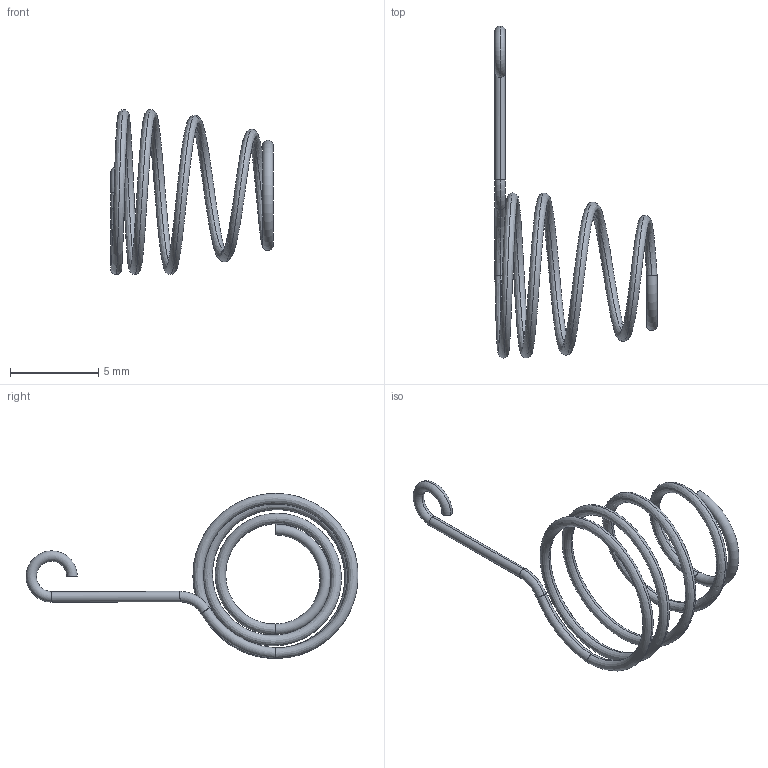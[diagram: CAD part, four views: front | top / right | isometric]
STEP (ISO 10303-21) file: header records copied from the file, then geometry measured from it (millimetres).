
FILE_DESCRIPTION(/* description */ ('STEP AP242 Edition 2','CAx-IF Rec.Pracs.---Representation and Presentation of Product Manufacturing Information (PMI)---4.0---2014-10-13','CAx-IF Rec.Pracs.---3D Tessellated Geometry---0.4---2014-09-14','2;1','CAx-IF Rec.Pracs.---User Defined Attributes---1.5---2016-08-15'),/* implementation_level */ '2;1');
FILE_NAME(/* name */ 'Part Studio 1 - Surface 31',/* time_stamp */ '2026-11-25T23:28:52Z',/* author */ (''),/* organization */ (''),/* preprocessor_version */ 'ST-DEVELOPER v20',/* originating_system */ 'ONSHAPE BY PTC INC, 1.224',/* authorisation */ ' ');
FILE_SCHEMA (('AP242_MANAGED_MODEL_BASED_3D_ENGINEERING_MIM_LF { 1 0 10303 442 3 1 4 }'));
Length unit declared in the file: metre
Products named in the file (1): NONE
Bounding box: 9.21 x 18.84 x 9.37 mm (x, y, z)
Surface area: 241.8 mm2 (no closed solid volume)
Topology: 0 solids, 1 shells, 12 faces, 24 edges, 13 vertices
Faces by surface type: torus 7, cylinder 2, bspline 2, plane 1
Entity records: 1338 total; most frequent: CARTESIAN_POINT 1110, ORIENTED_EDGE 44, DIRECTION 38, EDGE_CURVE 23, AXIS2_PLACEMENT_3D 18, B_SPLINE_CURVE_WITH_KNOTS 14, VERTEX_POINT 13, EDGE_LOOP 13
